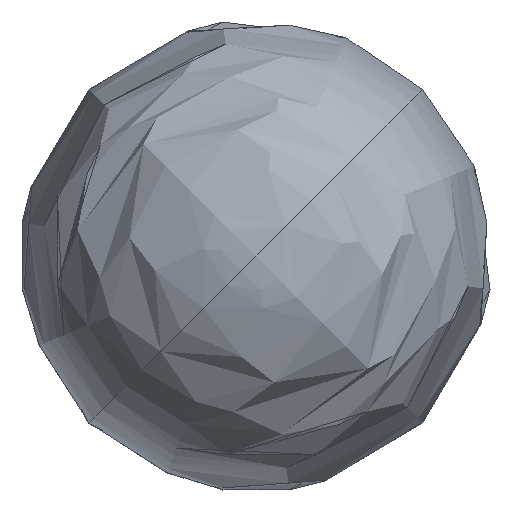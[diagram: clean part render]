
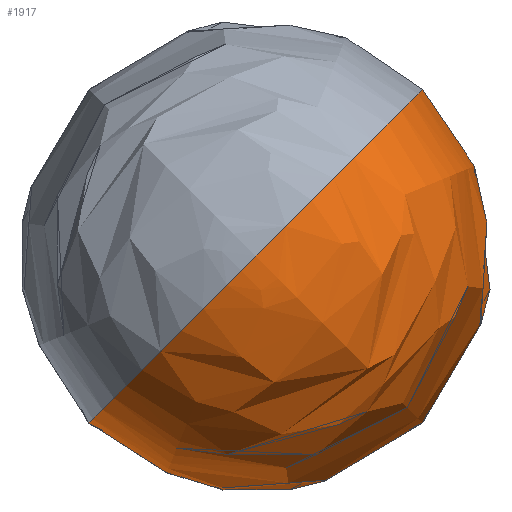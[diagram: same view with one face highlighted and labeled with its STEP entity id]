
A CAD part, front view. The second image highlights one B-rep face of the part: STEP entity #1917.
In plain terms, the highlighted free-form (B-spline) face has degree [3, 3] with [8, 4] control points.
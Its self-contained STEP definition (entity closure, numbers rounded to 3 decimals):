
#23 = CARTESIAN_POINT ( 'NONE',  ( 58.008, -2013.095, -174.024 ) ) ;
#26 = CARTESIAN_POINT ( 'NONE',  ( -58.008, -2013.095, -58.008 ) ) ;
#27 = CARTESIAN_POINT ( 'NONE',  ( 46.388, -2080.434, 46.388 ) ) ;
#29 = CARTESIAN_POINT ( 'NONE',  ( 139.163, -2080.434, -46.388 ) ) ;
#32 = CARTESIAN_POINT ( 'NONE',  ( 46.388, -2080.434, -139.163 ) ) ;
#33 = CARTESIAN_POINT ( 'NONE',  ( -46.388, -2080.434, -46.388 ) ) ;
#34 = CARTESIAN_POINT ( 'NONE',  ( 21.985, -2099., 21.985 ) ) ;
#38 = CARTESIAN_POINT ( 'NONE',  ( 0., -1399., 0. ) ) ;
#41 = CARTESIAN_POINT ( 'NONE',  ( 65.955, -2099., -21.985 ) ) ;
#42 = CARTESIAN_POINT ( 'NONE',  ( 21.985, -2099., -65.955 ) ) ;
#43 = CARTESIAN_POINT ( 'NONE',  ( -21.985, -2099., -21.985 ) ) ;
#44 = CARTESIAN_POINT ( 'NONE',  ( 0., -2099., 0. ) ) ;
#47 = CARTESIAN_POINT ( 'NONE',  ( 0., -2099., 0. ) ) ;
#52 = CARTESIAN_POINT ( 'NONE',  ( 0., -2099., 0. ) ) ;
#53 = CIRCLE ( 'NONE', #296, 17.5 ) ;
#64 = CARTESIAN_POINT ( 'NONE',  ( 58.008, -2013.095, 58.008 ) ) ;
#73 = CARTESIAN_POINT ( 'NONE',  ( 0., -2099., 0. ) ) ;
#100 = CARTESIAN_POINT ( 'NONE',  ( 56.123, -1960.469, 56.123 ) ) ;
#104 = CARTESIAN_POINT ( 'NONE',  ( -56.123, -1960.469, -56.123 ) ) ;
#123 = CARTESIAN_POINT ( 'NONE',  ( 125.018, -1825.568, -41.673 ) ) ;
#135 = CARTESIAN_POINT ( 'NONE',  ( 12.374, -1711.185, -37.123 ) ) ;
#146 = ORIENTED_EDGE ( 'NONE', *, *, #1392, .F. ) ;
#191 = CARTESIAN_POINT ( 'NONE',  ( -12.374, -1711.185, -12.374 ) ) ;
#193 = CARTESIAN_POINT ( 'NONE',  ( 174.024, -2013.095, -58.008 ) ) ;
#197 = AXIS2_PLACEMENT_3D ( 'NONE', #831, #781, #743 ) ;
#284 = FACE_OUTER_BOUND ( 'NONE', #406, .T. ) ;
#296 = AXIS2_PLACEMENT_3D ( 'NONE', #38, #691, #726 ) ;
#304 = VERTEX_POINT ( 'NONE', #927 ) ;
#321 = CARTESIAN_POINT ( 'NONE',  ( 12.374, -1399., -37.123 ) ) ;
#406 = EDGE_LOOP ( 'NONE', ( #904, #1817, #1473, #146 ) ) ;
#463 = CARTESIAN_POINT ( 'NONE',  ( 41.673, -1825.568, 41.673 ) ) ;
#465 = CARTESIAN_POINT ( 'NONE',  ( 37.123, -1399., -12.374 ) ) ;
#556 = CARTESIAN_POINT ( 'NONE',  ( 56.123, -1960.469, -168.368 ) ) ;
#691 = DIRECTION ( 'NONE',  ( 0., 1., 0. ) ) ;
#726 = DIRECTION ( 'NONE',  ( 0.707, 0., 0.707 ) ) ;
#733 = CARTESIAN_POINT ( 'NONE',  ( -41.673, -1825.568, -41.673 ) ) ;
#743 = DIRECTION ( 'NONE',  ( 0.707, 0., 0.707 ) ) ;
#781 = DIRECTION ( 'NONE',  ( 0., 1., 0. ) ) ;
#819 = CARTESIAN_POINT ( 'NONE',  ( 37.123, -1711.185, -12.374 ) ) ;
#831 = CARTESIAN_POINT ( 'NONE',  ( 0., -1399., 0. ) ) ;
#896 = CARTESIAN_POINT ( 'NONE',  ( -21.985, -2099., -21.985 ) ) ;
#904 = ORIENTED_EDGE ( 'NONE', *, *, #1587, .F. ) ;
#917 = EDGE_CURVE ( 'NONE', #2108, #2087, #1893, .T. ) ;
#927 = CARTESIAN_POINT ( 'NONE',  ( 0., -1399., -17.5 ) ) ;
#931 = CARTESIAN_POINT ( 'NONE',  ( 12.374, -1399., 12.374 ) ) ;
#988 = CARTESIAN_POINT ( 'NONE',  ( 41.673, -1825.568, -125.018 ) ) ;
#990 = VERTEX_POINT ( 'NONE', #931 ) ;
#1003 = CARTESIAN_POINT ( 'NONE',  ( -46.388, -2080.434, -46.388 ) ) ;
#1035 = CARTESIAN_POINT ( 'NONE',  ( -12.374, -1711.185, -12.374 ) ) ;
#1079 = CARTESIAN_POINT ( 'NONE',  ( -12.374, -1399., -12.374 ) ) ;
#1110 = CARTESIAN_POINT ( 'NONE',  ( 58.008, -2013.095, 58.008 ) ) ;
#1111 = CARTESIAN_POINT ( 'NONE',  ( 46.388, -2080.434, 46.388 ) ) ;
#1143 = CARTESIAN_POINT ( 'NONE',  ( 0., -2099., 0. ) ) ;
#1144 = CARTESIAN_POINT ( 'NONE',  ( -12.374, -1399., -12.374 ) ) ;
#1196 = CARTESIAN_POINT ( 'NONE',  ( 12.374, -1399., 12.374 ) ) ;
#1240 = CARTESIAN_POINT ( 'NONE',  ( 56.123, -1960.469, 56.123 ) ) ;
#1271 = CIRCLE ( 'NONE', #197, 17.5 ) ;
#1278 = EDGE_CURVE ( 'NONE', #2087, #990, #2212, .T. ) ;
#1345 = CARTESIAN_POINT ( 'NONE',  ( 21.985, -2099., 21.985 ) ) ;
#1392 = EDGE_CURVE ( 'NONE', #304, #2108, #53, .T. ) ;
#1473 = ORIENTED_EDGE ( 'NONE', *, *, #917, .F. ) ;
#1587 = EDGE_CURVE ( 'NONE', #990, #304, #1271, .T. ) ;
#1592 = CARTESIAN_POINT ( 'NONE',  ( 0., -2099., 0. ) ) ;
#1738 = CARTESIAN_POINT ( 'NONE',  ( 12.374, -1399., 12.374 ) ) ;
#1757 = CARTESIAN_POINT ( 'NONE',  ( -41.673, -1825.568, -41.673 ) ) ;
#1766 = CARTESIAN_POINT ( 'NONE',  ( 168.368, -1960.469, -56.123 ) ) ;
#1768 = CARTESIAN_POINT ( 'NONE',  ( -58.008, -2013.095, -58.008 ) ) ;
#1815 =( BOUNDED_SURFACE ( )  B_SPLINE_SURFACE ( 3, 3, ( 
 ( #52, #73, #47, #44 ),
 ( #43, #42, #41, #34 ),
 ( #33, #32, #29, #27 ),
 ( #26, #23, #193, #64 ),
 ( #104, #556, #1766, #100 ),
 ( #733, #988, #123, #463 ),
 ( #191, #135, #819, #2095 ),
 ( #1144, #321, #465, #1196 ) ),
 .UNSPECIFIED., .F., .F., .T. ) 
 B_SPLINE_SURFACE_WITH_KNOTS ( ( 4, 1, 1, 1, 1, 4 ),
 ( 4, 4 ),
 ( 0., 0.225, 0.267, 0.403, 0.478, 1. ),
 ( 0., 1. ),
 .UNSPECIFIED. ) 
 GEOMETRIC_REPRESENTATION_ITEM ( )  RATIONAL_B_SPLINE_SURFACE ( (
 ( 1., 0.333, 0.333, 1.),
 ( 1., 0.333, 0.333, 1.),
 ( 1., 0.333, 0.333, 1.),
 ( 1., 0.333, 0.333, 1.),
 ( 1., 0.333, 0.333, 1.),
 ( 1., 0.333, 0.333, 1.),
 ( 1., 0.333, 0.333, 1.),
 ( 1., 0.333, 0.333, 1.) ) ) 
 REPRESENTATION_ITEM ( '' )  SURFACE ( )  );
#1817 = ORIENTED_EDGE ( 'NONE', *, *, #1278, .F. ) ;
#1893 = B_SPLINE_CURVE_WITH_KNOTS ( 'NONE', 3,
 ( #1079, #1035, #1757, #1974, #1768, #1003, #896, #1592 ),
 .UNSPECIFIED., .F., .F.,
 ( 4, 1, 1, 1, 1, 4 ),
 ( 0., 0.522, 0.597, 0.733, 0.775, 1. ),
 .UNSPECIFIED. ) ;
#1915 = CARTESIAN_POINT ( 'NONE',  ( 41.673, -1825.568, 41.673 ) ) ;
#1917 = ADVANCED_FACE ( 'NONE', ( #284 ), #1815, .T. ) ;
#1961 = CARTESIAN_POINT ( 'NONE',  ( 12.374, -1711.185, 12.374 ) ) ;
#1974 = CARTESIAN_POINT ( 'NONE',  ( -56.123, -1960.469, -56.123 ) ) ;
#2087 = VERTEX_POINT ( 'NONE', #2333 ) ;
#2095 = CARTESIAN_POINT ( 'NONE',  ( 12.374, -1711.185, 12.374 ) ) ;
#2108 = VERTEX_POINT ( 'NONE', #2291 ) ;
#2212 = B_SPLINE_CURVE_WITH_KNOTS ( 'NONE', 3,
 ( #1143, #1345, #1111, #1110, #1240, #1915, #1961, #1738 ),
 .UNSPECIFIED., .F., .F.,
 ( 4, 1, 1, 1, 1, 4 ),
 ( 0., 0.225, 0.267, 0.403, 0.478, 1. ),
 .UNSPECIFIED. ) ;
#2291 = CARTESIAN_POINT ( 'NONE',  ( -12.374, -1399., -12.374 ) ) ;
#2333 = CARTESIAN_POINT ( 'NONE',  ( 0., -2099., 0. ) ) ;
